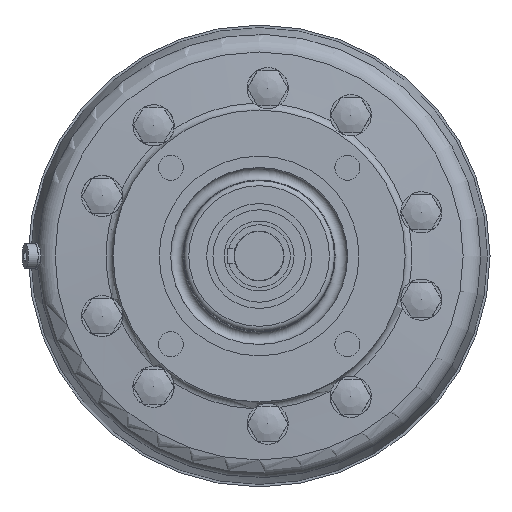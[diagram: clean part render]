
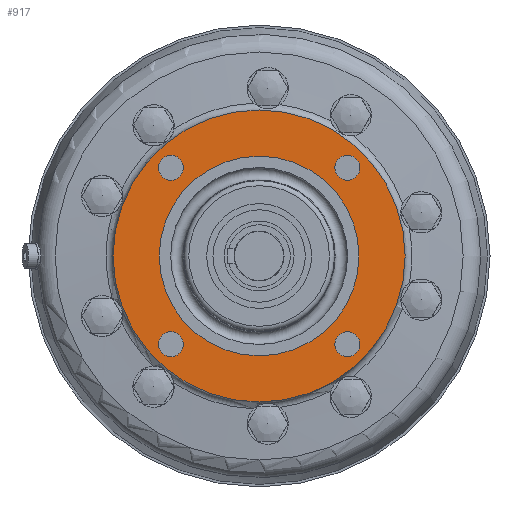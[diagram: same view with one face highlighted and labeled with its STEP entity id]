
A CAD part, left-side view. The second image highlights one B-rep face of the part: STEP entity #917.
In plain terms, the highlighted planar face has unit normal (-1, 0, 0) as drawn and (0, 1, 0) by its records, which use the part's own axes.
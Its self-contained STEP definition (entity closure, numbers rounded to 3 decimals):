
#917 = ADVANCED_FACE( '', ( #1849, #1850, #1851, #1852, #1853, #1854 ), #1855, .T. );
#1849 = FACE_BOUND( '', #2892, .T. );
#1850 = FACE_BOUND( '', #2893, .T. );
#1851 = FACE_BOUND( '', #2894, .T. );
#1852 = FACE_BOUND( '', #2895, .T. );
#1853 = FACE_BOUND( '', #2896, .T. );
#1854 = FACE_OUTER_BOUND( '', #2897, .T. );
#1855 = PLANE( '', #2898 );
#2892 = EDGE_LOOP( '', ( #4481 ) );
#2893 = EDGE_LOOP( '', ( #4482 ) );
#2894 = EDGE_LOOP( '', ( #4483 ) );
#2895 = EDGE_LOOP( '', ( #4484 ) );
#2896 = EDGE_LOOP( '', ( #4485 ) );
#2897 = EDGE_LOOP( '', ( #4486 ) );
#2898 = AXIS2_PLACEMENT_3D( '', #4487, #4488, #4489 );
#4481 = ORIENTED_EDGE( '', *, *, #5713, .T. );
#4482 = ORIENTED_EDGE( '', *, *, #5792, .F. );
#4483 = ORIENTED_EDGE( '', *, *, #5765, .F. );
#4484 = ORIENTED_EDGE( '', *, *, #5544, .F. );
#4485 = ORIENTED_EDGE( '', *, *, #5793, .F. );
#4486 = ORIENTED_EDGE( '', *, *, #5420, .F. );
#4487 = CARTESIAN_POINT( '', ( 58.5, 36., 0. ) );
#4488 = DIRECTION( '', ( 0., 1., 0. ) );
#4489 = DIRECTION( '', ( 0., 0., 1. ) );
#5420 = EDGE_CURVE( '', #6222, #6222, #6223, .T. );
#5544 = EDGE_CURVE( '', #6428, #6428, #6429, .T. );
#5713 = EDGE_CURVE( '', #6683, #6683, #6684, .T. );
#5765 = EDGE_CURVE( '', #6759, #6759, #6760, .T. );
#5792 = EDGE_CURVE( '', #6795, #6795, #6796, .T. );
#5793 = EDGE_CURVE( '', #6797, #6797, #6798, .T. );
#6222 = VERTEX_POINT( '', #9374 );
#6223 = CIRCLE( '', #9375, 58.5 );
#6428 = VERTEX_POINT( '', #9693 );
#6429 = CIRCLE( '', #9694, 5. );
#6683 = VERTEX_POINT( '', #10204 );
#6684 = CIRCLE( '', #10205, 40. );
#6759 = VERTEX_POINT( '', #10354 );
#6760 = CIRCLE( '', #10355, 5. );
#6795 = VERTEX_POINT( '', #10439 );
#6796 = CIRCLE( '', #10440, 5. );
#6797 = VERTEX_POINT( '', #10441 );
#6798 = CIRCLE( '', #10442, 5. );
#9374 = CARTESIAN_POINT( '', ( 0., 36., -58.5 ) );
#9375 = AXIS2_PLACEMENT_3D( '', #11008, #11009, #11010 );
#9693 = CARTESIAN_POINT( '', ( -30.355, 36., -35.355 ) );
#9694 = AXIS2_PLACEMENT_3D( '', #11203, #11204, #11205 );
#10204 = CARTESIAN_POINT( '', ( 0., 36., -40. ) );
#10205 = AXIS2_PLACEMENT_3D( '', #11409, #11410, #11411 );
#10354 = CARTESIAN_POINT( '', ( -30.355, 36., 35.355 ) );
#10355 = AXIS2_PLACEMENT_3D( '', #11470, #11471, #11472 );
#10439 = CARTESIAN_POINT( '', ( 40.355, 36., 35.355 ) );
#10440 = AXIS2_PLACEMENT_3D( '', #11500, #11501, #11502 );
#10441 = CARTESIAN_POINT( '', ( 40.355, 36., -35.355 ) );
#10442 = AXIS2_PLACEMENT_3D( '', #11503, #11504, #11505 );
#11008 = CARTESIAN_POINT( '', ( 0., 36., 0. ) );
#11009 = DIRECTION( '', ( 0., -1., 0. ) );
#11010 = DIRECTION( '', ( 0., 0., -1. ) );
#11203 = CARTESIAN_POINT( '', ( -35.355, 36., -35.355 ) );
#11204 = DIRECTION( '', ( 0., 1., 0. ) );
#11205 = DIRECTION( '', ( 1., 0., 0. ) );
#11409 = CARTESIAN_POINT( '', ( 0., 36., 0. ) );
#11410 = DIRECTION( '', ( 0., -1., 0. ) );
#11411 = DIRECTION( '', ( 0., 0., -1. ) );
#11470 = CARTESIAN_POINT( '', ( -35.355, 36., 35.355 ) );
#11471 = DIRECTION( '', ( 0., 1., 0. ) );
#11472 = DIRECTION( '', ( 1., 0., 0. ) );
#11500 = CARTESIAN_POINT( '', ( 35.355, 36., 35.355 ) );
#11501 = DIRECTION( '', ( 0., 1., 0. ) );
#11502 = DIRECTION( '', ( 1., 0., 0. ) );
#11503 = CARTESIAN_POINT( '', ( 35.355, 36., -35.355 ) );
#11504 = DIRECTION( '', ( 0., 1., 0. ) );
#11505 = DIRECTION( '', ( 1., 0., 0. ) );
